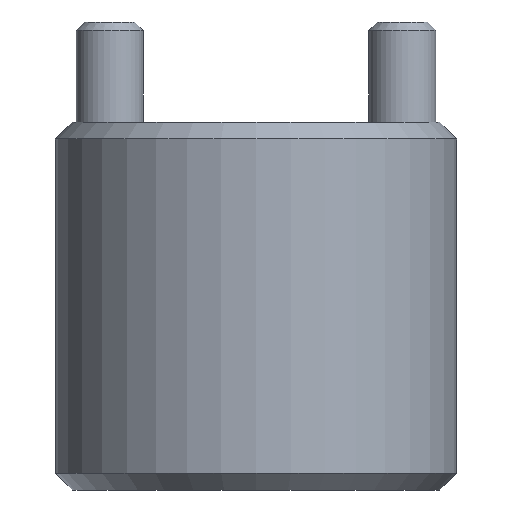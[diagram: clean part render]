
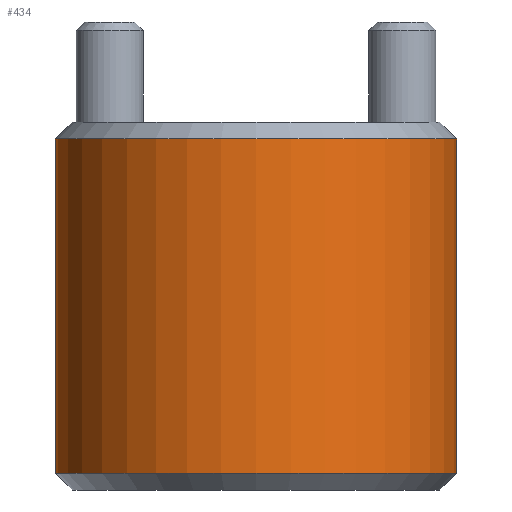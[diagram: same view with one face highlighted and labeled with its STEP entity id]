
A CAD part, left-side view. The second image highlights one B-rep face of the part: STEP entity #434.
In plain terms, the highlighted cylindrical face has radius 12 mm (diameter 24 mm), a partial arc.
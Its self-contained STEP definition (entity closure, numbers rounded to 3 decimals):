
#87=CARTESIAN_POINT('',(0.,0.,-1.));
#88=DIRECTION('',(0.,0.,1.));
#89=DIRECTION('',(0.,1.,0.));
#90=AXIS2_PLACEMENT_3D('',#87,#88,#89);
#92=DIRECTION('',(0.,0.,1.));
#93=VECTOR('',#92,20.);
#94=CARTESIAN_POINT('',(0.,-12.,
-21.));
#95=LINE('',#94,#93);
#96=CARTESIAN_POINT('',(0.,0.,-21.));
#97=DIRECTION('',(0.,0.,1.));
#98=DIRECTION('',(0.,1.,0.));
#99=AXIS2_PLACEMENT_3D('',#96,#97,#98);
#101=DIRECTION('',(0.,0.,1.));
#102=VECTOR('',#101,20.);
#103=CARTESIAN_POINT('',(0.,12.,
-21.));
#104=LINE('',#103,#102);
#303=CARTESIAN_POINT('',(0.,12.,-1.));
#304=CARTESIAN_POINT('',(0.,-12.,-1.));
#305=VERTEX_POINT('',#303);
#306=VERTEX_POINT('',#304);
#307=CARTESIAN_POINT('',(0.,12.,-21.));
#308=CARTESIAN_POINT('',(0.,-12.,-21.));
#309=VERTEX_POINT('',#307);
#310=VERTEX_POINT('',#308);
#422=CARTESIAN_POINT('',(0.,0.,1.1));
#423=DIRECTION('',(0.,0.,-1.));
#424=DIRECTION('',(0.,-1.,0.));
#425=AXIS2_PLACEMENT_3D('',#422,#423,#424);
#426=CYLINDRICAL_SURFACE('',#425,12.);
#427=ORIENTED_EDGE('',*,*,#381,.T.);
#428=ORIENTED_EDGE('',*,*,#411,.F.);
#430=ORIENTED_EDGE('',*,*,#429,.F.);
#431=ORIENTED_EDGE('',*,*,#407,.T.);
#432=EDGE_LOOP('',(#427,#428,#430,#431));
#433=FACE_OUTER_BOUND('',#432,.F.);
#434=ADVANCED_FACE('',(#433),#426,.T.);
#91=CIRCLE('',#90,12.);
#100=CIRCLE('',#99,12.);
#381=EDGE_CURVE('',#305,#306,#91,.T.);
#407=EDGE_CURVE('',#309,#305,#104,.T.);
#411=EDGE_CURVE('',#310,#306,#95,.T.);
#429=EDGE_CURVE('',#309,#310,#100,.T.);
